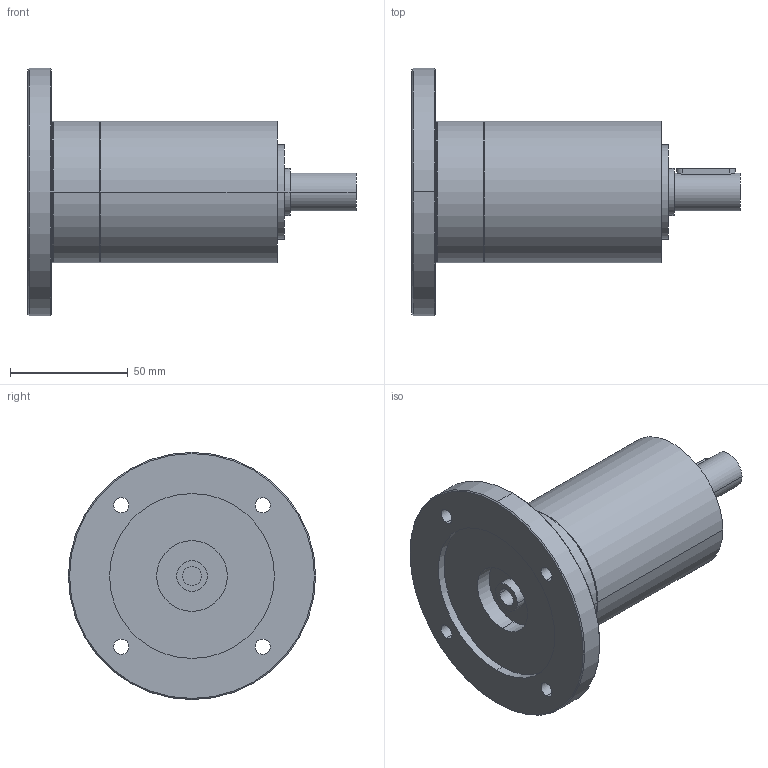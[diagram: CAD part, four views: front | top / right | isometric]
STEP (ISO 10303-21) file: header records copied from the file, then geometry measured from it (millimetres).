
FILE_DESCRIPTION(('CoCreate Modeling STEP Export'),'2;1');
FILE_NAME('GPR75_ig-9-12-16-20-24-30-36_16_B14_8_P05.stp','2014-08-25T16:05:53',(''),(''),'CoCreate Modeling STEP processor for AP214 (Solid Model)','CoCreate Modeling 16.00C 25-Feb-2009 (C) Parametric Technology GmbH','');
FILE_SCHEMA(('AUTOMOTIVE_DESIGN { 1 0 10303 214 1 1 1 1 }'));
Length unit declared in the file: millimetre
Products named in the file (2): GPR75_ig-9-12-16-20-24-30-36_16_B14_8_P05
Assembly tree (1 placements, depth 2):
  GPR75_ig-9-12-16-20-24-30-36_16_B14_8_P05
    GPR75_ig-9-12-16-20-24-30-36_16_B14_8_P05
Bounding box: 139.4 x 105 x 105 mm (x, y, z)
Volume: 346982.3 mm3; surface area: 44184.8 mm2
Topology: 1 solids, 1 shells, 71 faces, 187 edges, 131 vertices
Faces by surface type: cylinder 42, plane 19, cone 10
Entity records: 1882 total; most frequent: ORIENTED_EDGE 370, CARTESIAN_POINT 346, DIRECTION 244, EDGE_CURVE 185, VERTEX_POINT 131, EDGE_LOOP 94, AXIS2_PLACEMENT_3D 93, FACE_OUTER_BOUND 71
